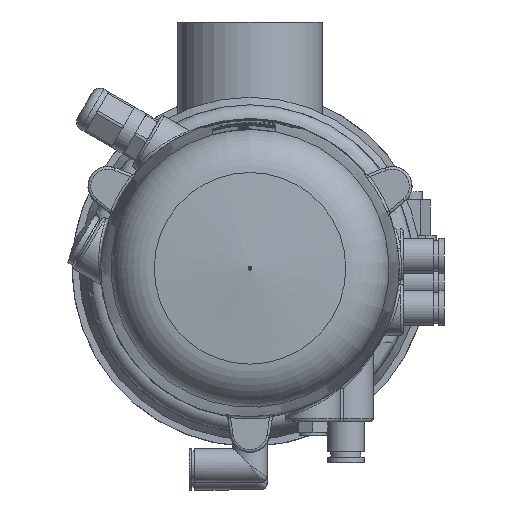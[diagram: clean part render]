
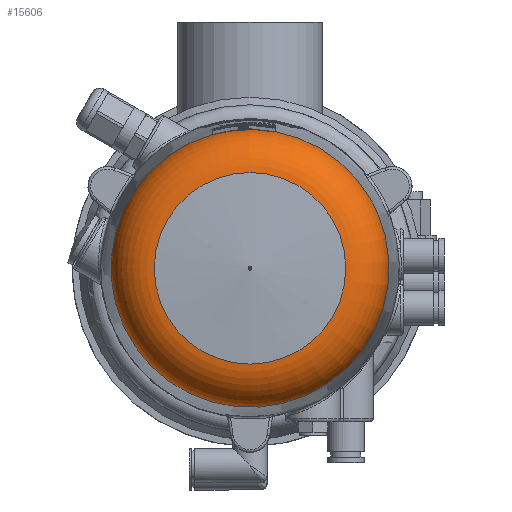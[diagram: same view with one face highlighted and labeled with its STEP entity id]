
A CAD part, front view. The second image highlights one B-rep face of the part: STEP entity #15606.
In plain terms, the highlighted toroidal (fillet/blend) face has major radius 33.812 mm and minor radius 17 mm.
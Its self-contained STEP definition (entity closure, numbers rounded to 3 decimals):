
#520 = FACE_OUTER_BOUND ( 'NONE', #42507, .T. ) ;
#1286 = EDGE_CURVE ( 'NONE', #6568, #26706, #42244, .T. ) ;
#6078 = ORIENTED_EDGE ( 'NONE', *, *, #20961, .T. ) ;
#6195 = AXIS2_PLACEMENT_3D ( 'NONE', #51756, #33342, #22390 ) ;
#6568 = VERTEX_POINT ( 'NONE', #40913 ) ;
#7551 = CARTESIAN_POINT ( 'NONE',  ( 0., 140.463, 0. ) ) ;
#10866 = CARTESIAN_POINT ( 'NONE',  ( 0., 156.588, -34.998 ) ) ;
#11281 = B_SPLINE_CURVE_WITH_KNOTS ( 'NONE', 3,
 ( #30324, #61003, #50355, #36137 ),
 .UNSPECIFIED., .F., .F.,
 ( 4, 4 ),
 ( 0., 0. ),
 .UNSPECIFIED. ) ;
#11464 = DIRECTION ( 'NONE',  ( 0., -1., 0. ) ) ;
#11818 = VERTEX_POINT ( 'NONE', #10866 ) ;
#12839 = CARTESIAN_POINT ( 'NONE',  ( -38.515, 140.491, -33.11 ) ) ;
#14359 = AXIS2_PLACEMENT_3D ( 'NONE', #7551, #55398, #50871 ) ;
#14633 = CARTESIAN_POINT ( 'NONE',  ( -49.217, 140.491, -12.546 ) ) ;
#15512 = TOROIDAL_SURFACE ( 'NONE', #6195, 33.812, 17. ) ;
#15606 = ADVANCED_FACE ( 'NONE', ( #31755, #520 ), #15512, .T. ) ;
#20961 = EDGE_CURVE ( 'NONE', #11818, #11818, #55143, .T. ) ;
#22390 = DIRECTION ( 'NONE',  ( 0., 0., -1. ) ) ;
#24461 = CARTESIAN_POINT ( 'NONE',  ( -49.218, 140.463, -12.546 ) ) ;
#25947 = AXIS2_PLACEMENT_3D ( 'NONE', #50747, #31376, #36541 ) ;
#26307 = AXIS2_PLACEMENT_3D ( 'NONE', #35714, #11464, #55406 ) ;
#26706 = VERTEX_POINT ( 'NONE', #24461 ) ;
#30324 = CARTESIAN_POINT ( 'NONE',  ( -38.515, 140.491, -33.11 ) ) ;
#31376 = DIRECTION ( 'NONE',  ( 0., 1., 0. ) ) ;
#31755 = FACE_OUTER_BOUND ( 'NONE', #41825, .T. ) ;
#32025 = EDGE_CURVE ( 'NONE', #34915, #26706, #49559, .T. ) ;
#33342 = DIRECTION ( 'NONE',  ( 0., -1., 0. ) ) ;
#34915 = VERTEX_POINT ( 'NONE', #51594 ) ;
#35714 = CARTESIAN_POINT ( 'NONE',  ( 0., 156.588, 0. ) ) ;
#36137 = CARTESIAN_POINT ( 'NONE',  ( -38.517, 140.463, -33.11 ) ) ;
#36541 = DIRECTION ( 'NONE',  ( 0., 0., -1. ) ) ;
#39215 = CARTESIAN_POINT ( 'NONE',  ( -49.218, 140.473, -12.546 ) ) ;
#40913 = CARTESIAN_POINT ( 'NONE',  ( -38.517, 140.463, -33.11 ) ) ;
#41438 = CIRCLE ( 'NONE', #25947, 50.791 ) ;
#41825 = EDGE_LOOP ( 'NONE', ( #61769, #59676, #60510, #44984 ) ) ;
#42244 = CIRCLE ( 'NONE', #14359, 50.792 ) ;
#42507 = EDGE_LOOP ( 'NONE', ( #6078 ) ) ;
#44984 = ORIENTED_EDGE ( 'NONE', *, *, #1286, .F. ) ;
#47738 = EDGE_CURVE ( 'NONE', #51534, #34915, #41438, .T. ) ;
#49559 = B_SPLINE_CURVE_WITH_KNOTS ( 'NONE', 3,
 ( #14633, #54682, #39215, #63744 ),
 .UNSPECIFIED., .F., .F.,
 ( 4, 4 ),
 ( 0., 0. ),
 .UNSPECIFIED. ) ;
#50355 = CARTESIAN_POINT ( 'NONE',  ( -38.516, 140.473, -33.11 ) ) ;
#50747 = CARTESIAN_POINT ( 'NONE',  ( 0., 140.491, 0. ) ) ;
#50871 = DIRECTION ( 'NONE',  ( 0., 0., -1. ) ) ;
#51346 = EDGE_CURVE ( 'NONE', #51534, #6568, #11281, .T. ) ;
#51534 = VERTEX_POINT ( 'NONE', #12839 ) ;
#51594 = CARTESIAN_POINT ( 'NONE',  ( -49.217, 140.491, -12.546 ) ) ;
#51756 = CARTESIAN_POINT ( 'NONE',  ( 0., 139.629, 0. ) ) ;
#54682 = CARTESIAN_POINT ( 'NONE',  ( -49.217, 140.482, -12.546 ) ) ;
#55143 = CIRCLE ( 'NONE', #26307, 34.998 ) ;
#55398 = DIRECTION ( 'NONE',  ( 0., -1., 0. ) ) ;
#55406 = DIRECTION ( 'NONE',  ( 0., 0., -1. ) ) ;
#59676 = ORIENTED_EDGE ( 'NONE', *, *, #47738, .T. ) ;
#60510 = ORIENTED_EDGE ( 'NONE', *, *, #32025, .T. ) ;
#61003 = CARTESIAN_POINT ( 'NONE',  ( -38.516, 140.482, -33.11 ) ) ;
#61769 = ORIENTED_EDGE ( 'NONE', *, *, #51346, .F. ) ;
#63744 = CARTESIAN_POINT ( 'NONE',  ( -49.218, 140.463, -12.546 ) ) ;
